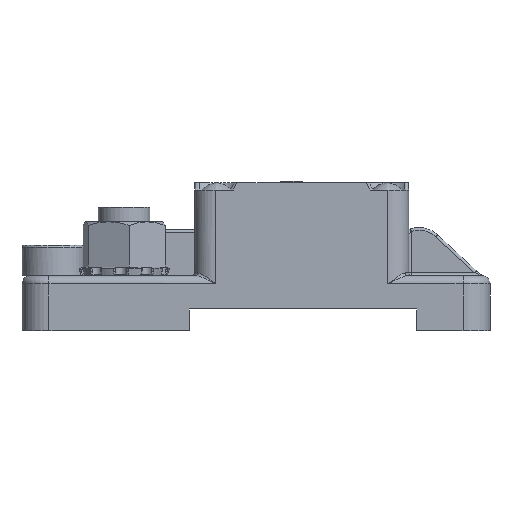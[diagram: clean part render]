
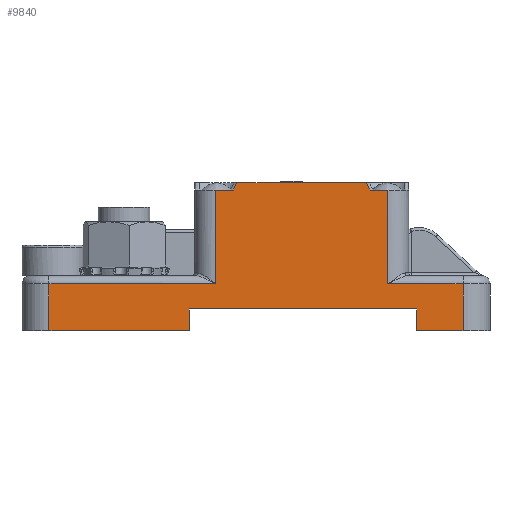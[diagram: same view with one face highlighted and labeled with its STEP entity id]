
A CAD part, front view. The second image highlights one B-rep face of the part: STEP entity #9840.
In plain terms, the highlighted planar face has unit normal (0, -1, 0).
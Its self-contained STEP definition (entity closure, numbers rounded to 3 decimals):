
#568=B_SPLINE_CURVE_WITH_KNOTS('',3,(#17288,#17289,#17290,#17291),
 .UNSPECIFIED.,.F.,.F.,(4,4),(-0.132,0.019),
 .UNSPECIFIED.);
#569=B_SPLINE_CURVE_WITH_KNOTS('',3,(#17321,#17322,#17323,#17324),
 .UNSPECIFIED.,.F.,.F.,(4,4),(-0.17,-0.019),
 .UNSPECIFIED.);
#1052=LINE('',#15676,#1669);
#1095=LINE('',#16294,#1712);
#1096=LINE('',#16299,#1713);
#1100=LINE('',#16314,#1717);
#1105=LINE('',#16327,#1722);
#1106=LINE('',#16329,#1723);
#1139=LINE('',#17050,#1756);
#1152=LINE('',#18030,#1769);
#1154=LINE('',#18037,#1771);
#1155=LINE('',#18040,#1772);
#1156=LINE('',#18042,#1773);
#1157=LINE('',#18043,#1774);
#1158=LINE('',#18044,#1775);
#1159=LINE('',#18045,#1776);
#1669=VECTOR('',#11637,10.);
#1712=VECTOR('',#11842,10.);
#1713=VECTOR('',#11847,10.);
#1717=VECTOR('',#11859,10.);
#1722=VECTOR('',#11870,10.);
#1723=VECTOR('',#11873,10.);
#1756=VECTOR('',#12052,10.);
#1769=VECTOR('',#12089,10.);
#1771=VECTOR('',#12097,10.);
#1772=VECTOR('',#12102,10.);
#1773=VECTOR('',#12103,10.);
#1774=VECTOR('',#12104,10.);
#1775=VECTOR('',#12105,10.);
#1776=VECTOR('',#12106,10.);
#2425=FACE_OUTER_BOUND('',#3038,.T.);
#3038=EDGE_LOOP('',(#7583,#7584,#7585,#7586,#7587,#7588,#7589,#7590,#7591,
#7592,#7593,#7594,#7595,#7596,#7597,#7598));
#4106=VERTEX_POINT('',#15619);
#4107=VERTEX_POINT('',#15675);
#4180=VERTEX_POINT('',#16288);
#4182=VERTEX_POINT('',#16292);
#4184=VERTEX_POINT('',#16297);
#4189=VERTEX_POINT('',#16310);
#4191=VERTEX_POINT('',#16313);
#4193=VERTEX_POINT('',#16319);
#4252=VERTEX_POINT('',#16921);
#4255=VERTEX_POINT('',#16976);
#4258=VERTEX_POINT('',#17049);
#4262=VERTEX_POINT('',#17226);
#4263=VERTEX_POINT('',#17320);
#4279=VERTEX_POINT('',#18028);
#4281=VERTEX_POINT('',#18036);
#4282=VERTEX_POINT('',#18041);
#5205=EDGE_CURVE('',#4107,#4106,#1052,.T.);
#5310=EDGE_CURVE('',#4180,#4182,#1095,.T.);
#5312=EDGE_CURVE('',#4184,#4182,#1096,.T.);
#5319=EDGE_CURVE('',#4189,#4191,#1100,.T.);
#5326=EDGE_CURVE('',#4191,#4193,#1105,.T.);
#5327=EDGE_CURVE('',#4189,#4180,#1106,.T.);
#5429=EDGE_CURVE('',#4255,#4258,#1139,.T.);
#5437=EDGE_CURVE('',#4262,#4106,#568,.T.);
#5438=EDGE_CURVE('',#4107,#4263,#569,.T.);
#5471=EDGE_CURVE('',#4262,#4279,#1152,.T.);
#5474=EDGE_CURVE('',#4281,#4263,#1154,.T.);
#5476=EDGE_CURVE('',#4252,#4279,#1155,.T.);
#5477=EDGE_CURVE('',#4282,#4252,#1156,.T.);
#5478=EDGE_CURVE('',#4282,#4193,#1157,.T.);
#5479=EDGE_CURVE('',#4258,#4184,#1158,.T.);
#5480=EDGE_CURVE('',#4281,#4255,#1159,.T.);
#7583=ORIENTED_EDGE('',*,*,#5471,.T.);
#7584=ORIENTED_EDGE('',*,*,#5476,.F.);
#7585=ORIENTED_EDGE('',*,*,#5477,.F.);
#7586=ORIENTED_EDGE('',*,*,#5478,.T.);
#7587=ORIENTED_EDGE('',*,*,#5326,.F.);
#7588=ORIENTED_EDGE('',*,*,#5319,.F.);
#7589=ORIENTED_EDGE('',*,*,#5327,.T.);
#7590=ORIENTED_EDGE('',*,*,#5310,.T.);
#7591=ORIENTED_EDGE('',*,*,#5312,.F.);
#7592=ORIENTED_EDGE('',*,*,#5479,.F.);
#7593=ORIENTED_EDGE('',*,*,#5429,.F.);
#7594=ORIENTED_EDGE('',*,*,#5480,.F.);
#7595=ORIENTED_EDGE('',*,*,#5474,.T.);
#7596=ORIENTED_EDGE('',*,*,#5438,.F.);
#7597=ORIENTED_EDGE('',*,*,#5205,.T.);
#7598=ORIENTED_EDGE('',*,*,#5437,.F.);
#9494=PLANE('',#10576);
#9840=ADVANCED_FACE('',(#2425),#9494,.T.);
#10576=AXIS2_PLACEMENT_3D('',#18039,#12100,#12101);
#11637=DIRECTION('',(-1.,0.,0.));
#11842=DIRECTION('',(0.,0.,-1.));
#11847=DIRECTION('',(-1.,0.,0.));
#11859=DIRECTION('',(0.,0.,-1.));
#11870=DIRECTION('',(-1.,0.,0.));
#11873=DIRECTION('',(1.,0.,0.));
#12052=DIRECTION('',(1.,0.,0.));
#12089=DIRECTION('',(-1.,0.,0.));
#12097=DIRECTION('',(-1.,0.,0.));
#12100=DIRECTION('center_axis',(0.,-1.,0.));
#12101=DIRECTION('ref_axis',(1.,0.,0.));
#12102=DIRECTION('',(0.,0.,1.));
#12103=DIRECTION('',(1.,0.,0.));
#12104=DIRECTION('',(0.,0.,-1.));
#12105=DIRECTION('',(0.,0.,-1.));
#12106=DIRECTION('',(0.,0.,-1.));
#15619=CARTESIAN_POINT('',(39.656,0.,23.299));
#15675=CARTESIAN_POINT('',(63.544,0.,23.299));
#15676=CARTESIAN_POINT('',(71.35,0.,23.299));
#16288=CARTESIAN_POINT('',(72.85,0.,0.));
#16292=CARTESIAN_POINT('',(72.85,0.,-4.));
#16294=CARTESIAN_POINT('',(72.85,0.,0.));
#16297=CARTESIAN_POINT('',(81.369,0.,-4.));
#16299=CARTESIAN_POINT('',(72.85,0.,-4.));
#16310=CARTESIAN_POINT('',(30.85,0.,0.));
#16313=CARTESIAN_POINT('',(30.85,0.,-4.));
#16314=CARTESIAN_POINT('',(30.85,0.,0.));
#16319=CARTESIAN_POINT('',(4.981,0.,-4.));
#16327=CARTESIAN_POINT('',(4.981,0.,-4.));
#16329=CARTESIAN_POINT('',(0.,0.,0.));
#16921=CARTESIAN_POINT('',(35.676,0.,4.65));
#16976=CARTESIAN_POINT('',(67.524,0.,4.65));
#17049=CARTESIAN_POINT('',(81.369,0.,4.65));
#17050=CARTESIAN_POINT('',(21.588,0.,4.65));
#17226=CARTESIAN_POINT('',(38.984,0.,21.949));
#17288=CARTESIAN_POINT('Ctrl Pts',(38.984,0.,
21.948));
#17289=CARTESIAN_POINT('Ctrl Pts',(39.217,0.,
22.394));
#17290=CARTESIAN_POINT('Ctrl Pts',(39.44,0.,
22.845));
#17291=CARTESIAN_POINT('Ctrl Pts',(39.656,0.,
23.299));
#17320=CARTESIAN_POINT('',(64.216,0.,21.949));
#17321=CARTESIAN_POINT('Ctrl Pts',(63.544,0.,
23.299));
#17322=CARTESIAN_POINT('Ctrl Pts',(63.76,0.,
22.845));
#17323=CARTESIAN_POINT('Ctrl Pts',(63.983,0.,
22.394));
#17324=CARTESIAN_POINT('Ctrl Pts',(64.216,0.,
21.948));
#18028=CARTESIAN_POINT('',(35.676,0.,21.949));
#18030=CARTESIAN_POINT('',(17.913,0.,21.949));
#18036=CARTESIAN_POINT('',(67.524,0.,21.949));
#18037=CARTESIAN_POINT('',(33.687,0.,21.949));
#18039=CARTESIAN_POINT('Origin',(0.,0.,0.));
#18040=CARTESIAN_POINT('',(35.676,0.,3.075));
#18041=CARTESIAN_POINT('',(4.981,0.,4.65));
#18042=CARTESIAN_POINT('',(21.588,0.,4.65));
#18043=CARTESIAN_POINT('',(4.981,0.,0.));
#18044=CARTESIAN_POINT('',(81.369,0.,0.));
#18045=CARTESIAN_POINT('',(67.524,0.,3.075));
